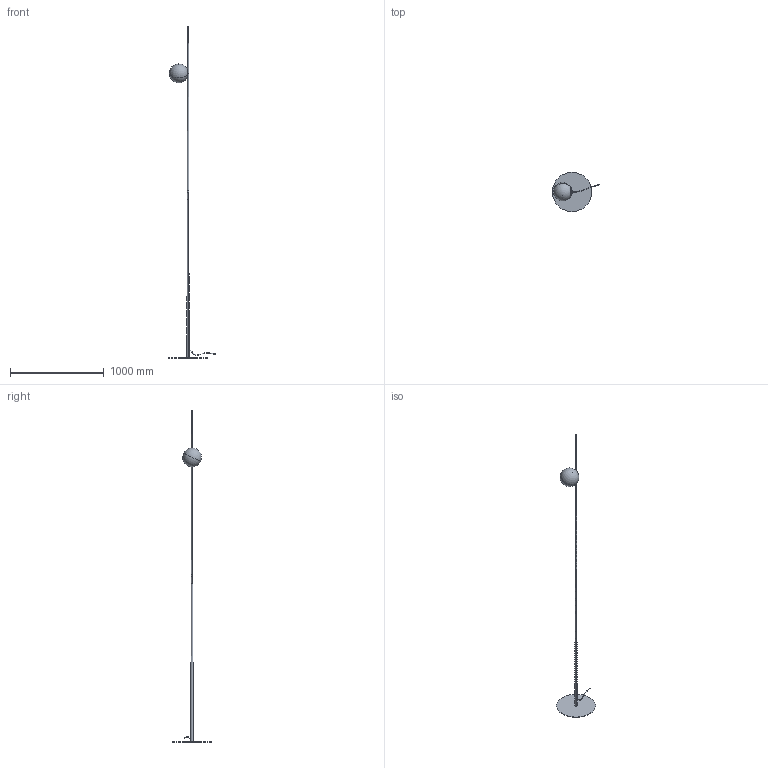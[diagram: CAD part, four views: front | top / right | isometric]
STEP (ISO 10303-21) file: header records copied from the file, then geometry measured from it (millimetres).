
FILE_DESCRIPTION (( 'STEP AP203' ), '1' );
FILE_NAME ('HP302ABEXT.step', '2023-02-16T13:58:46', ( '' ), ( '' ), 'SwSTEP 2.0', 'SolidWorks 2019', '' );
FILE_SCHEMA (( 'CONFIG_CONTROL_DESIGN' ));
Length unit declared in the file: millimetre
Products named in the file (9): PR23MU02-F; PR23MU02-E; HP302ABEXT; PR23MU02-D2; PR23MU02-L1; PR23MU02-B; PR23MU02-L2; Copia di cavo^HP302ABEXT; PR23MU02-G
Assembly tree (8 placements, depth 2):
  HP302ABEXT
    PR23MU02-B
    PR23MU02-L1
    PR23MU02-L2
    PR23MU02-D2
    PR23MU02-E
    PR23MU02-F
    PR23MU02-G
    Copia di cavo^HP302ABEXT
Bounding box: 504.98 x 420 x 3547.99 mm (x, y, z)
Volume: 918127.4 mm3; surface area: 921979.4 mm2
Topology: 8 solids, 8 shells, 107 faces, 270 edges, 176 vertices
Faces by surface type: cylinder 42, plane 27, cone 16, sphere 8, torus 8, bspline 6
Entity records: 7060 total; most frequent: CARTESIAN_POINT 3720, ORIENTED_EDGE 512, DIRECTION 491, EDGE_CURVE 256, AXIS2_PLACEMENT_3D 206, VERTEX_POINT 168, EDGE_LOOP 126, ADVANCED_FACE 107
